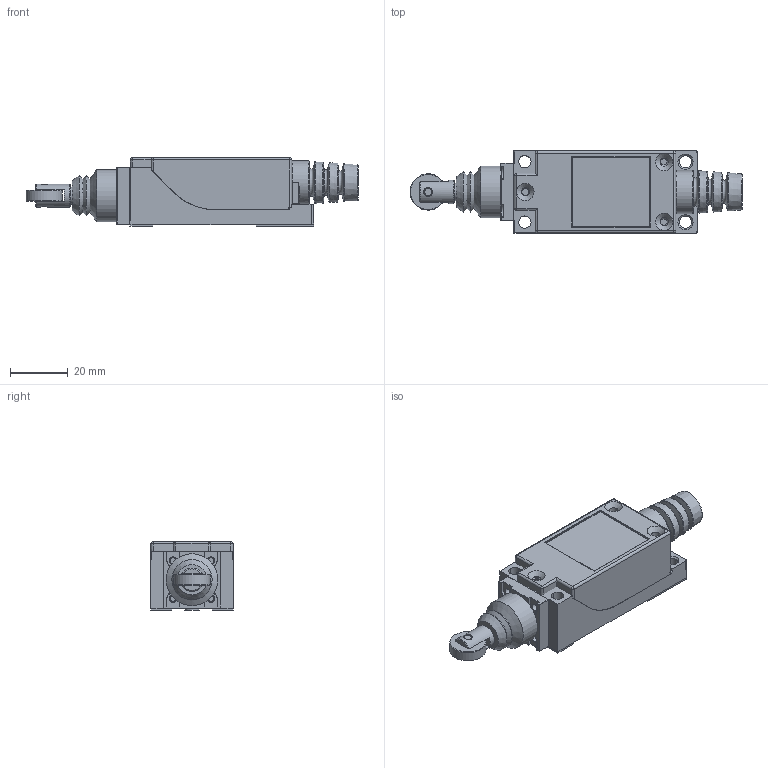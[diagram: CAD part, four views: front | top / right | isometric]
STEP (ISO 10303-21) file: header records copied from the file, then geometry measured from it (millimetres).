
FILE_DESCRIPTION(('FreeCAD Model'),'2;1');
FILE_NAME('Open CASCADE Shape Model','2026-09-09T09:33:13',(''),(''), 'Open CASCADE STEP processor 7.8','FreeCAD','Unknown');
FILE_SCHEMA(('AUTOMOTIVE_DESIGN { 1 0 10303 214 1 1 1 1 }'));
Length unit declared in the file: millimetre
Products named in the file (10): FM8112; TZ-8112; TZ-8113; TZ-8114; TZ-8115; TZ-8116; TZ-8117; TZ-8118; TZ-8119; TZ-8120
Assembly tree (9 placements, depth 2):
  FM8112
    TZ-8112
    TZ-8113
    TZ-8114
    TZ-8115
    TZ-8116
    TZ-8117
    TZ-8118
    TZ-8119
    TZ-8120
Bounding box: 115.27 x 28.81 x 23.81 mm (x, y, z)
Volume: 20581.9 mm3; surface area: 24071.9 mm2
Topology: 9 solids, 9 shells, 548 faces, 1336 edges, 813 vertices
Faces by surface type: plane 232, cylinder 182, cone 70, torus 28, sphere 22, bspline 10, extrusion 4
Full cylindrical faces by diameter (mm): 1.5 x1, 2.5 x2, 2.6 x4, 3 x6, 3.1 x1, 5.6 x1, 6 x3, 8 x1, 8.07 x2, 8.2 x1, 12 x1, 12.4 x2, 12.5 x2, 12.6 x1, 14.5 x2, 15 x1, 18 x1
Entity records: 19587 total; most frequent: CARTESIAN_POINT 6524, DIRECTION 2731, ORIENTED_EDGE 2622, EDGE_CURVE 1311, AXIS2_PLACEMENT_3D 1021, VERTEX_POINT 813, VECTOR 689, LINE 685
